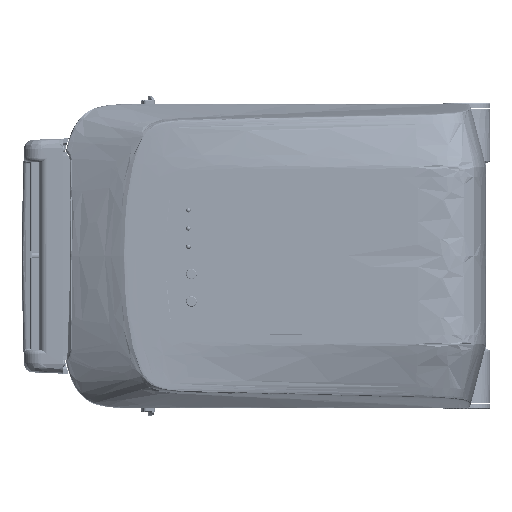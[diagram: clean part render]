
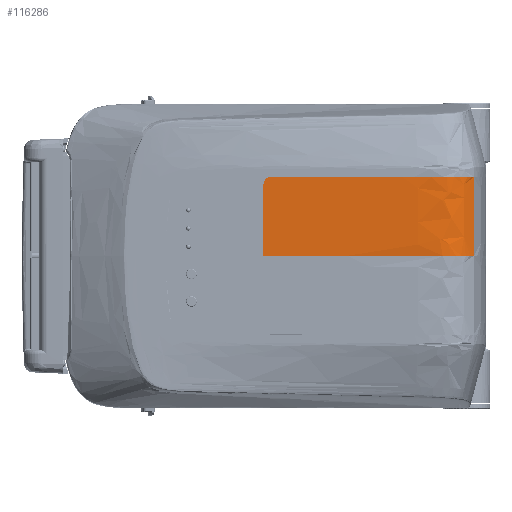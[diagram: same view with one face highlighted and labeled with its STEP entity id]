
A CAD part, top view. The second image highlights one B-rep face of the part: STEP entity #116286.
In plain terms, the highlighted face is a extrusion surface.
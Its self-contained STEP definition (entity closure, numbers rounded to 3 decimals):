
#114610=CARTESIAN_POINT('',(131.899,0.,
167.454));
#114654=CARTESIAN_POINT('',(131.899,0.,
167.454));
#114655=CARTESIAN_POINT('',(123.798,0.001,
179.989));
#114656=CARTESIAN_POINT('',(91.393,-0.002,
180.));
#114657=CARTESIAN_POINT('',(64.15,0.002,
180.));
#114658=CARTESIAN_POINT('',(36.907,0.001,
180.));
#114659=CARTESIAN_POINT('',(12.668,0.01,
180.));
#114660=CARTESIAN_POINT('',(-2.047,0.,180.));
#114661=CARTESIAN_POINT('',(-6.975,0.,180.));
#114666=DIRECTION('',(0.,1.,0.));
#114667=VECTOR('',#114666,46.793);
#114668=CARTESIAN_POINT('',(-6.975,0.,180.));
#114669=LINE('',#114668,#114667);
#114673=CARTESIAN_POINT('',(-6.975,46.793,180.));
#114674=CARTESIAN_POINT('',(-6.975,47.232,180.));
#114675=CARTESIAN_POINT('',(-6.859,48.107,180.));
#114676=CARTESIAN_POINT('',(-6.353,49.325,180.));
#114677=CARTESIAN_POINT('',(-5.552,50.369,180.));
#114678=CARTESIAN_POINT('',(-4.507,51.171,180.));
#114679=CARTESIAN_POINT('',(-3.289,51.677,180.));
#114680=CARTESIAN_POINT('',(-2.414,51.793,180.));
#114681=CARTESIAN_POINT('',(-1.975,51.793,180.));
#114686=CARTESIAN_POINT('',(-1.975,51.793,180.));
#114687=CARTESIAN_POINT('',(1.411,51.793,180.));
#114688=CARTESIAN_POINT('',(14.398,51.796,180.));
#114689=CARTESIAN_POINT('',(30.675,51.791,180.));
#114690=CARTESIAN_POINT('',(43.086,51.793,180.));
#114691=CARTESIAN_POINT('',(46.254,51.793,180.));
#114696=DIRECTION('',(0.,-1.,0.));
#114697=VECTOR('',#114696,51.799);
#114698=CARTESIAN_POINT('',(131.898,51.799,
167.457));
#114699=LINE('',#114698,#114697);
#115631=CARTESIAN_POINT('',(131.898,51.799,
167.457));
#115632=CARTESIAN_POINT('',(131.511,51.799,
168.056));
#115633=CARTESIAN_POINT('',(130.694,51.8,
169.207));
#115634=CARTESIAN_POINT('',(129.345,51.8,
170.784));
#115635=CARTESIAN_POINT('',(127.87,51.8,
172.224));
#115636=CARTESIAN_POINT('',(126.246,51.8,
173.548));
#115637=CARTESIAN_POINT('',(124.45,51.8,
174.763));
#115638=CARTESIAN_POINT('',(122.448,51.8,
175.876));
#115639=CARTESIAN_POINT('',(120.191,51.8,
176.888));
#115640=CARTESIAN_POINT('',(117.614,51.8,
177.794));
#115641=CARTESIAN_POINT('',(114.618,51.8,
178.587));
#115642=CARTESIAN_POINT('',(111.089,51.8,
179.234));
#115643=CARTESIAN_POINT('',(107.05,51.8,
179.695));
#115644=CARTESIAN_POINT('',(102.249,51.8,
179.948));
#115645=CARTESIAN_POINT('',(97.788,51.8,
180.));
#115646=CARTESIAN_POINT('',(94.001,51.8,
179.996));
#115647=CARTESIAN_POINT('',(90.454,51.8,
179.998));
#115648=CARTESIAN_POINT('',(86.845,51.8,
179.999));
#115649=CARTESIAN_POINT('',(83.189,51.8,
179.999));
#115650=CARTESIAN_POINT('',(79.397,51.8,
180.));
#115651=CARTESIAN_POINT('',(75.329,51.799,
180.));
#115652=CARTESIAN_POINT('',(70.722,51.8,
180.));
#115653=CARTESIAN_POINT('',(65.443,51.801,
180.));
#115654=CARTESIAN_POINT('',(59.713,51.804,
180.));
#115655=CARTESIAN_POINT('',(53.449,51.783,
180.));
#115656=CARTESIAN_POINT('',(48.73,51.81,180.));
#115657=CARTESIAN_POINT('',(46.254,51.793,180.));
#116066=VERTEX_POINT('',#114610);
#116072=CARTESIAN_POINT('',(131.898,51.799,
167.457));
#116073=VERTEX_POINT('',#116072);
#116076=VERTEX_POINT('',#114661);
#116077=CARTESIAN_POINT('',(-6.975,46.793,180.));
#116078=VERTEX_POINT('',#116077);
#116079=VERTEX_POINT('',#114681);
#116080=VERTEX_POINT('',#114691);
#116259=CARTESIAN_POINT('',(-8.401,52.239,180.));
#116260=CARTESIAN_POINT('',(-7.928,52.239,180.));
#116261=CARTESIAN_POINT('',(-2.549,52.238,180.));
#116262=CARTESIAN_POINT('',(12.67,52.237,180.));
#116263=CARTESIAN_POINT('',(36.911,52.236,180.));
#116264=CARTESIAN_POINT('',(64.154,52.234,180.));
#116265=CARTESIAN_POINT('',(91.397,52.232,180.));
#116266=CARTESIAN_POINT('',(124.324,52.23,
179.988));
#116267=CARTESIAN_POINT('',(132.416,52.23,
166.63));
#116268=CARTESIAN_POINT('',(132.661,52.23,
166.198));
#116270=DIRECTION('',(0.,1.,0.));
#116271=VECTOR('',#116270,1.);
#116272=SURFACE_OF_LINEAR_EXTRUSION('',#116269,#116271);
#116274=ORIENTED_EDGE('',*,*,#116273,.T.);
#116276=ORIENTED_EDGE('',*,*,#116275,.T.);
#116278=ORIENTED_EDGE('',*,*,#116277,.T.);
#116280=ORIENTED_EDGE('',*,*,#116279,.T.);
#116282=ORIENTED_EDGE('',*,*,#116281,.F.);
#116283=ORIENTED_EDGE('',*,*,#116248,.T.);
#116284=EDGE_LOOP('',(#116274,#116276,#116278,#116280,#116282,#116283));
#116285=FACE_OUTER_BOUND('',#116284,.F.);
#114662=B_SPLINE_CURVE_WITH_KNOTS('',3,(#114654,#114655,#114656,#114657,#114658,
#114659,#114660,#114661),.UNSPECIFIED.,.F.,.F.,(4,1,1,1,1,4),(0.,
0.22,0.44,0.66,0.88,1.),
.UNSPECIFIED.);
#114682=B_SPLINE_CURVE_WITH_KNOTS('',3,(#114673,#114674,#114675,#114676,#114677,
#114678,#114679,#114680,#114681),.UNSPECIFIED.,.F.,.F.,(4,1,1,1,1,1,4),(0.,
0.167,0.333,0.5,0.667,0.833,
1.),.UNSPECIFIED.);
#114692=B_SPLINE_CURVE_WITH_KNOTS('',3,(#114686,#114687,#114688,#114689,#114690,
#114691),.UNSPECIFIED.,.F.,.F.,(4,1,1,4),(0.,0.213,
0.798,1.),.UNSPECIFIED.);
#115658=B_SPLINE_CURVE_WITH_KNOTS('',3,(#115631,#115632,#115633,#115634,#115635,
#115636,#115637,#115638,#115639,#115640,#115641,#115642,#115643,#115644,#115645,
#115646,#115647,#115648,#115649,#115650,#115651,#115652,#115653,#115654,#115655,
#115656,#115657),.UNSPECIFIED.,.F.,.F.,(4,1,1,1,1,1,1,1,1,1,1,1,1,1,1,1,1,1,1,1,
1,1,1,1,4),(0.,0.042,0.083,0.125,0.167,
0.208,0.25,0.292,0.333,0.375,
0.417,0.458,0.5,0.542,0.583,
0.625,0.667,0.708,0.75,0.792,
0.833,0.875,0.917,0.958,1.),
.UNSPECIFIED.);
#116248=EDGE_CURVE('',#116073,#116066,#114699,.T.);
#116269=B_SPLINE_CURVE_WITH_KNOTS('',3,(#116259,#116260,#116261,#116262,#116263,
#116264,#116265,#116266,#116267,#116268),.UNSPECIFIED.,.F.,.F.,(4,1,1,1,1,1,1,
4),(0.,0.011,0.129,0.345,
0.561,0.777,0.993,1.),.UNSPECIFIED.);
#116273=EDGE_CURVE('',#116066,#116076,#114662,.T.);
#116275=EDGE_CURVE('',#116076,#116078,#114669,.T.);
#116277=EDGE_CURVE('',#116078,#116079,#114682,.T.);
#116279=EDGE_CURVE('',#116079,#116080,#114692,.T.);
#116281=EDGE_CURVE('',#116073,#116080,#115658,.T.);
#116286=ADVANCED_FACE('',(#116285),#116272,.T.);
